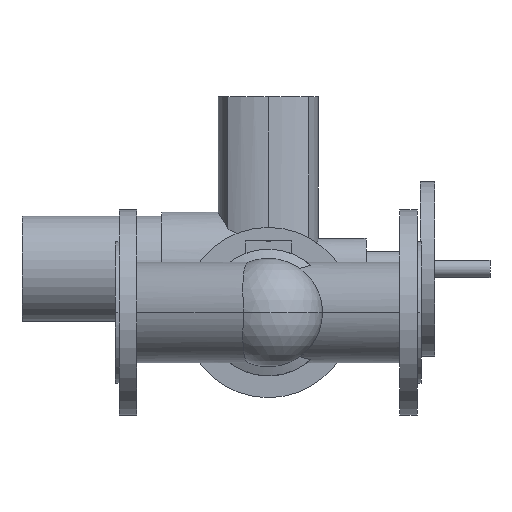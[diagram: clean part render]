
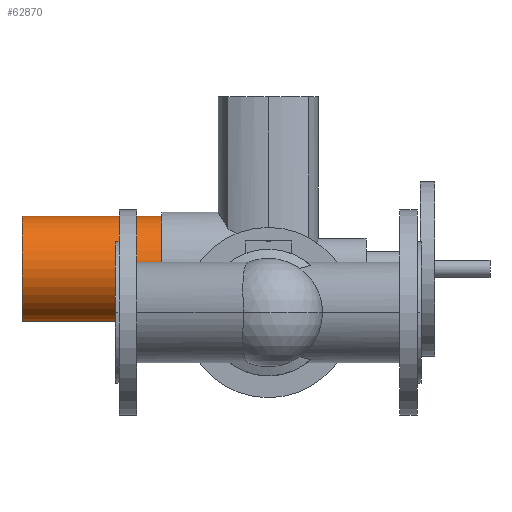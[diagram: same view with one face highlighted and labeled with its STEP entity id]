
A CAD part, front view. The second image highlights one B-rep face of the part: STEP entity #62870.
In plain terms, the highlighted cylindrical face has radius 60.5 mm (diameter 121 mm), a partial arc.
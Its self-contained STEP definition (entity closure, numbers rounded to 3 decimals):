
#62460=CARTESIAN_POINT('',(-27.,482.,50.));
#62470=DIRECTION('',(1.,0.,0.));
#62480=DIRECTION('',(0.,0.,-1.));
#62490=AXIS2_PLACEMENT_3D('',#62460,#62470,#62480);
#62500=CYLINDRICAL_SURFACE('',#62490,60.5);
#62510=CARTESIAN_POINT('',(-27.,482.,-10.5));
#62520=DIRECTION('',(1.,0.,0.));
#62530=VECTOR('',#62520,1.);
#62540=LINE('',#62510,#62530);
#62550=CARTESIAN_POINT('',(-107.,482.,-10.5));
#62560=VERTEX_POINT('',#62550);
#62570=CARTESIAN_POINT('',(53.,482.,-10.5));
#62580=VERTEX_POINT('',#62570);
#62590=EDGE_CURVE('',#62560,#62580,#62540,.T.);
#62600=ORIENTED_EDGE('',*,*,#62590,.T.);
#62610=CARTESIAN_POINT('',(-107.,482.,50.));
#62620=DIRECTION('',(-1.,0.,0.));
#62630=DIRECTION('',(0.,0.,-1.));
#62640=AXIS2_PLACEMENT_3D('',#62610,#62620,#62630);
#62650=CIRCLE('',#62640,60.5);
#62660=CARTESIAN_POINT('',(-107.,482.,110.5));
#62670=VERTEX_POINT('',#62660);
#62680=EDGE_CURVE('',#62560,#62670,#62650,.T.);
#62690=ORIENTED_EDGE('',*,*,#62680,.F.);
#62700=CARTESIAN_POINT('',(-27.,482.,110.5));
#62710=DIRECTION('',(1.,0.,0.));
#62720=VECTOR('',#62710,1.);
#62730=LINE('',#62700,#62720);
#62740=CARTESIAN_POINT('',(53.,482.,110.5));
#62750=VERTEX_POINT('',#62740);
#62760=EDGE_CURVE('',#62670,#62750,#62730,.T.);
#62770=ORIENTED_EDGE('',*,*,#62760,.F.);
#62780=CARTESIAN_POINT('',(53.,482.,50.));
#62790=DIRECTION('',(-1.,0.,0.));
#62800=DIRECTION('',(0.,0.,-1.));
#62810=AXIS2_PLACEMENT_3D('',#62780,#62790,#62800);
#62820=CIRCLE('',#62810,60.5);
#62830=EDGE_CURVE('',#62580,#62750,#62820,.T.);
#62840=ORIENTED_EDGE('',*,*,#62830,.T.);
#62850=EDGE_LOOP('',(#62840,#62770,#62690,#62600));
#62860=FACE_OUTER_BOUND('',#62850,.T.);
#62870=ADVANCED_FACE('',(#62860),#62500,.T.);
